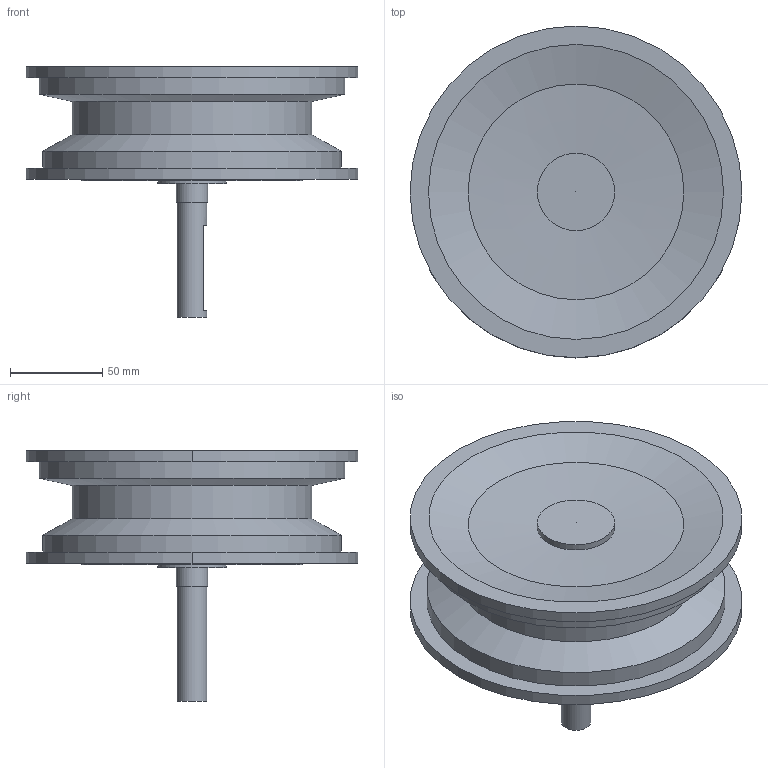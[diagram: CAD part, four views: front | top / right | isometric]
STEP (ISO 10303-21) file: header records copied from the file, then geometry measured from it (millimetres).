
FILE_DESCRIPTION(('FreeCAD Model'),'2;1');
FILE_NAME('Open CASCADE Shape Model','2021-11-15T15:25:16',('Author'),( ''),'Open CASCADE STEP processor 7.5','FreeCAD','Unknown');
FILE_SCHEMA(('AUTOMOTIVE_DESIGN { 1 0 10303 214 1 1 1 1 }'));
Length unit declared in the file: millimetre
Products named in the file (1): hbm_plastic_180mm
Bounding box: 180 x 180 x 136 mm (x, y, z)
Volume: 1090267.5 mm3; surface area: 104888 mm2
Topology: 1 solids, 1 shells, 28 faces, 53 edges, 33 vertices
Faces by surface type: cylinder 12, plane 11, cone 5
Full cylindrical faces by diameter (mm): 16 x1, 17 x1, 37 x1, 42 x1, 120 x1, 130 x1, 162 x1, 166 x1
Entity records: 1416 total; most frequent: CARTESIAN_POINT 242, DIRECTION 240, ORIENTED_EDGE 104, PCURVE 104, DEFINITIONAL_REPRESENTATION 104, LINE 103, VECTOR 103, AXIS2_PLACEMENT_3D 59
